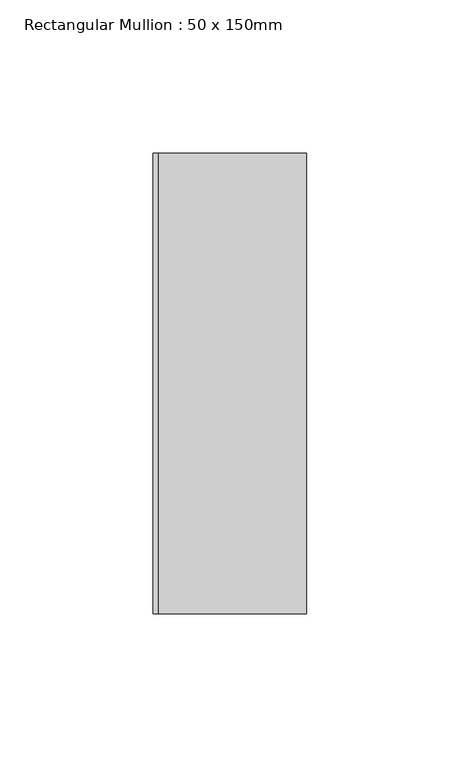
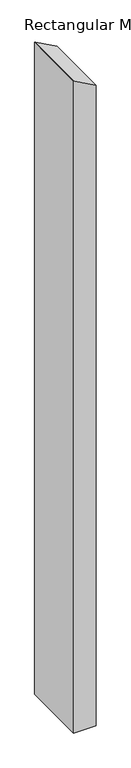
"""IFC4 building model written with IfcOpenShell, lengths in millimetres: member geometry, Rectangular Mullion : 50 x 150mm."""

from ifc_helpers import new_model, si_unit, frame, origin, place, context, project, spatial, polyline, outline, extrude, source, transform, mapped, element, save


def rectangular_mullion_50_x_150mm_4be8d751(model_context):
    return source(origin(), model_context, "Body", "SweptSolid", [
        extrude(outline(polyline([(-70.0462572, 25.0), (-44.2558446, -23.2707827), (-43.3611125, -25.0), (-1573.1868214, -25.0), (-1573.1868214, 25.0), (-70.0462572, 25.0)])), frame((0.0, -75.0, 0.0), z_axis=(0.0, 1.0, 0.0), x_axis=(0.0, 0.0, 1.0)), (0.0, 0.0, 1.0), 150.0),
    ])


if __name__ == "__main__":
    model = new_model("IFC4")
    model_context = context("Model", 3, world=origin())
    ifc_project = project(units=[si_unit("LENGTHUNIT", "METRE", prefix="MILLI")], contexts=[model_context])
    site = spatial("IfcSite", under=ifc_project)
    building = spatial("IfcBuilding", under=site)
    placement = place(None, origin())
    rectangular_mullion_50_x_150mm_shape = rectangular_mullion_50_x_150mm_4be8d751(model_context)
    element("IfcMember", 1, ObjectType="Rectangular Mullion : 50 x 150mm", at=placement, inside=building, context=model_context, shape_type="MappedRepresentation", body=[
        mapped(rectangular_mullion_50_x_150mm_shape, transform((0.0, 0.0, 0.0), x_axis=(1.0, 0.0, 0.0), y_axis=(0.0, 1.0, 0.0), z_axis=(0.0, 0.0, 1.0))),
    ])
    save(model, "model.ifc")
